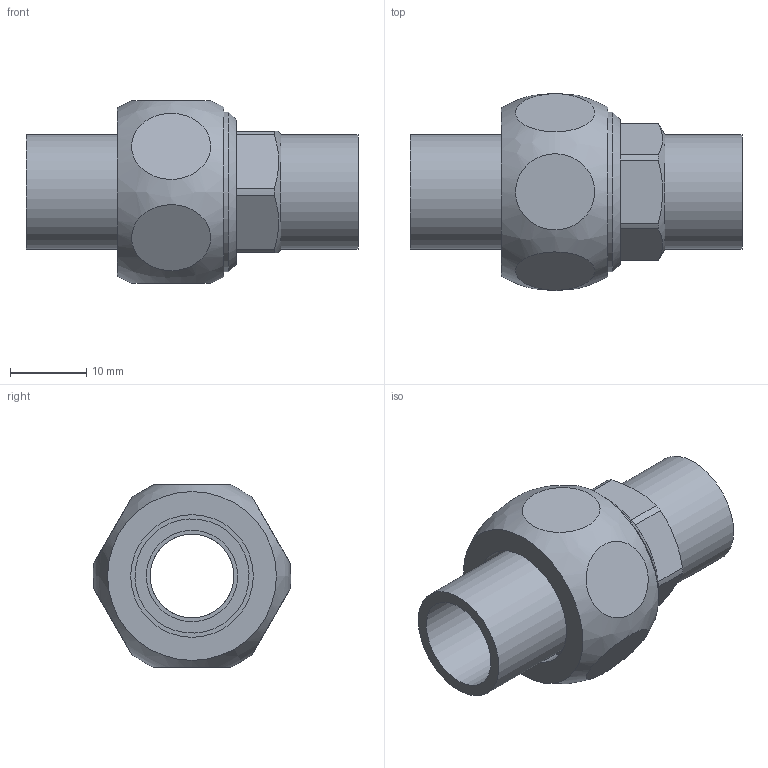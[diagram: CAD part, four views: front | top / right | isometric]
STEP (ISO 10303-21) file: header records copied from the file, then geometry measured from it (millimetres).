
FILE_DESCRIPTION((''),'2;1');
FILE_NAME('\\Lg50001\groups\SANHA Legnica\Engineering\Public\RYSUNKI\SANHA POLSKA\4340\step\14340_12(1).stp','2010-06-17T11:55:51',('pajchrowski'),(''),'Autodesk Inventor 2009','Autodesk Inventor 2009','');
FILE_SCHEMA(('AUTOMOTIVE_DESIGN { 1 0 10303 214 1 1 1 1 }'));
Length unit declared in the file: millimetre
Products named in the file (4): 14340_12(1); 14381_12-12(1); 14374B_12(0); 14380_12-12-A(1)
Assembly tree (3 placements, depth 2):
  14340_12(1)
    14381_12-12(1)
    14374B_12(0)
    14380_12-12-A(1)
Bounding box: 43.61 x 25.96 x 24 mm (x, y, z)
Volume: 7799.6 mm3; surface area: 6928.3 mm2
Topology: 3 solids, 3 shells, 47 faces, 90 edges, 60 vertices
Faces by surface type: plane 23, cylinder 17, cone 5, bspline 2
Full cylindrical faces by diameter (mm): 11 x2, 12 x2, 15 x3, 16.1 x1, 18.3 x1, 18.63 x1, 20.955 x1
Entity records: 2153 total; most frequent: CARTESIAN_POINT 1146, DIRECTION 202, ORIENTED_EDGE 140, AXIS2_PLACEMENT_3D 92, EDGE_LOOP 82, EDGE_CURVE 70, VERTEX_POINT 58, FACE_OUTER_BOUND 47
